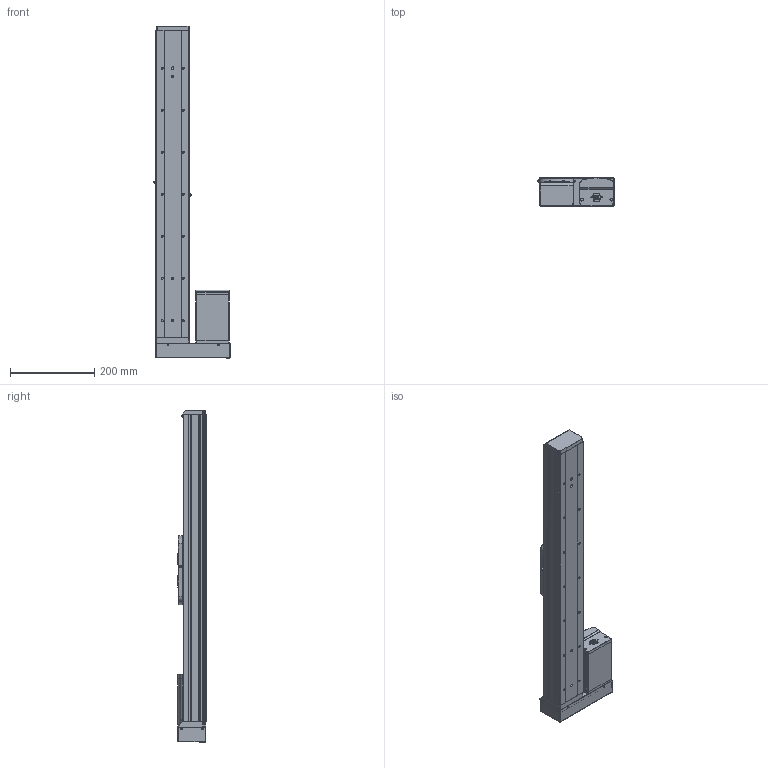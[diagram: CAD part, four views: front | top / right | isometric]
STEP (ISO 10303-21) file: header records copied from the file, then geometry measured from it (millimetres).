
FILE_DESCRIPTION (( 'STEP AP203' ), '1' );
FILE_NAME ('GERC80-550-FLXD.STEP', '2020-05-22T08:38:09', ( '' ), ( '' ), 'SwSTEP 2.0', 'SolidWorks 2019', '' );
FILE_SCHEMA (( 'CONFIG_CONTROL_DESIGN' ));
Products named in the file (3): Group1^GERC80-550-FLXD_defeature_GMT; Group2^GERC80-550-FLXD_defeature_GMT; GERC80-550-FLXD
Assembly tree (2 placements, depth 2):
  GERC80-550-FLXD
    Group1^GERC80-550-FLXD_defeature_GMT
    Group2^GERC80-550-FLXD_defeature_GMT
Bounding box: 182 x 67.5 x 789 mm (x, y, z)
Volume: 2418600.5 mm3; surface area: 704868.7 mm2
Topology: 25 solids, 25 shells, 3760 faces, 9812 edges, 6130 vertices
Faces by surface type: plane 1270, cylinder 1152, cone 1003, bspline 195, torus 80, sphere 60
Entity records: 139812 total; most frequent: CARTESIAN_POINT 46732, DIRECTION 20192, ORIENTED_EDGE 19490, EDGE_CURVE 9745, AXIS2_PLACEMENT_3D 7735, VERTEX_POINT 6124, LINE 4722, VECTOR 4722
